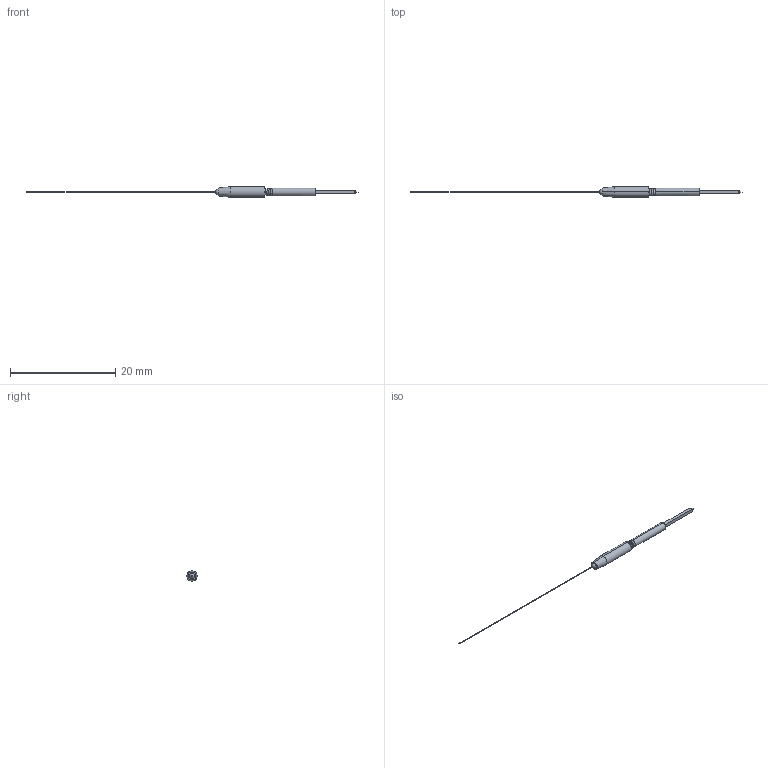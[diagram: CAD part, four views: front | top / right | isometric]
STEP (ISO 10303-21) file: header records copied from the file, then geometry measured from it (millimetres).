
FILE_DESCRIPTION (( 'STEP AP203' ), '1' );
FILE_NAME ('IT-16PW-1C.STEP', '2014-08-28T05:52:47', ( '' ), ( '' ), 'SwSTEP 2.0', 'SolidWorks 2011', '' );
FILE_SCHEMA (( 'CONFIG_CONTROL_DESIGN' ));
Length unit declared in the file: millimetre
Products named in the file (1): IT-16PW-1C
Bounding box: 62.98 x 2 x 2 mm (x, y, z)
Volume: 46.3 mm3; surface area: 144.6 mm2
Topology: 1 solids, 1 shells, 32 faces, 83 edges, 53 vertices
Faces by surface type: cylinder 14, plane 8, cone 6, sphere 3, bspline 1
Entity records: 1969 total; most frequent: CARTESIAN_POINT 1178, ORIENTED_EDGE 156, DIRECTION 140, EDGE_CURVE 78, AXIS2_PLACEMENT_3D 56, VERTEX_POINT 53, EDGE_LOOP 37, ADVANCED_FACE 32
